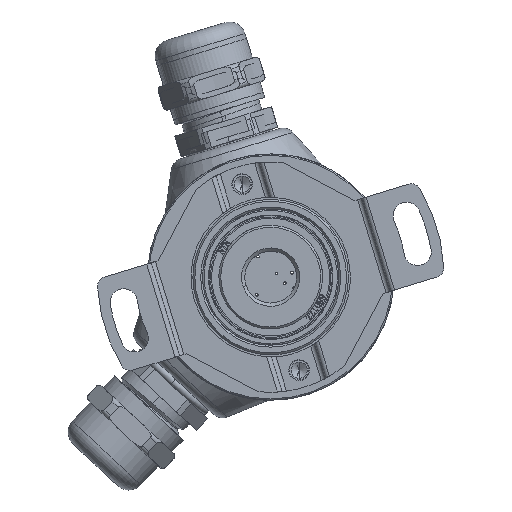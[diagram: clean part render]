
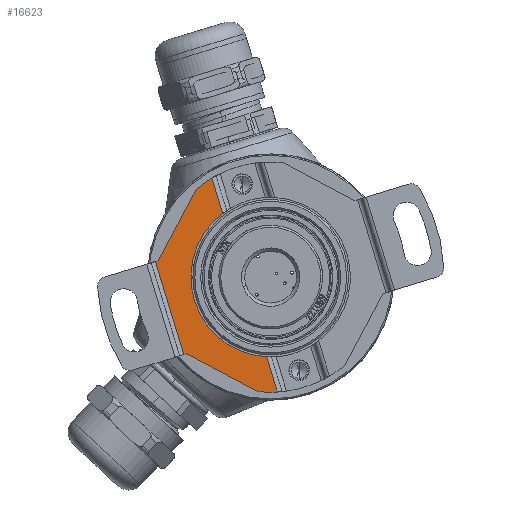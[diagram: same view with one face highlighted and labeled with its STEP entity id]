
A CAD part, front view. The second image highlights one B-rep face of the part: STEP entity #16623.
In plain terms, the highlighted planar face has unit normal (0, -1, 0) as drawn and (-1, 0, 0) by its records, which use the part's own axes.
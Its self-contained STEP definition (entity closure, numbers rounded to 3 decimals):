
#2673 = CARTESIAN_POINT ( 'NONE',  ( -2., -16.3, 12.5 ) ) ;
#3513 = ORIENTED_EDGE ( 'NONE', *, *, #17398, .T. ) ;
#3627 = CARTESIAN_POINT ( 'NONE',  ( -2., -16.3, 40. ) ) ;
#4490 = ORIENTED_EDGE ( 'NONE', *, *, #30512, .T. ) ;
#4609 = VERTEX_POINT ( 'NONE', #34836 ) ;
#6031 = DIRECTION ( 'NONE',  ( 0., 0., -1. ) ) ;
#6487 = CARTESIAN_POINT ( 'NONE',  ( -2., -4.2, 2.754 ) ) ;
#7362 = VERTEX_POINT ( 'NONE', #36213 ) ;
#8220 = CARTESIAN_POINT ( 'NONE',  ( -2., -7.041, 36.294 ) ) ;
#8225 = DIRECTION ( 'NONE',  ( 0., 0.707, 0.707 ) ) ;
#8730 = CARTESIAN_POINT ( 'NONE',  ( -2., 0., 20. ) ) ;
#10491 = VERTEX_POINT ( 'NONE', #26599 ) ;
#10509 = EDGE_LOOP ( 'NONE', ( #50079, #29484, #55674, #28095, #55848, #13007, #3513, #30097, #38497, #4490 ) ) ;
#10674 = CIRCLE ( 'NONE', #31870, 17.75 ) ;
#12072 = CARTESIAN_POINT ( 'NONE',  ( -2., 0., 20. ) ) ;
#12081 = AXIS2_PLACEMENT_3D ( 'NONE', #21382, #53106, #25925 ) ;
#12543 = VECTOR ( 'NONE', #39660, 1000. ) ;
#12937 = DIRECTION ( 'NONE',  ( -1., 0., 0. ) ) ;
#13007 = ORIENTED_EDGE ( 'NONE', *, *, #49687, .F. ) ;
#13290 = DIRECTION ( 'NONE',  ( 0., -1., 0. ) ) ;
#16465 = VECTOR ( 'NONE', #22263, 1000. ) ;
#16623 = ADVANCED_FACE ( 'NONE', ( #25693 ), #40115, .T. ) ;
#16655 = DIRECTION ( 'NONE',  ( 0., -1., 0. ) ) ;
#17398 = EDGE_CURVE ( 'NONE', #7362, #10491, #29126, .T. ) ;
#21382 = CARTESIAN_POINT ( 'NONE',  ( -2., 0., 20. ) ) ;
#22263 = DIRECTION ( 'NONE',  ( 0., 0., -1. ) ) ;
#24408 = CARTESIAN_POINT ( 'NONE',  ( -2., -9.817, 33.517 ) ) ;
#24619 = LINE ( 'NONE', #44042, #12543 ) ;
#24855 = EDGE_CURVE ( 'NONE', #10491, #46284, #34937, .T. ) ;
#24973 = CIRCLE ( 'NONE', #12081, 17.75 ) ;
#25693 = FACE_OUTER_BOUND ( 'NONE', #10509, .T. ) ;
#25925 = DIRECTION ( 'NONE',  ( 0., -1., 0. ) ) ;
#26599 = CARTESIAN_POINT ( 'NONE',  ( -2., -15.835, 27.5 ) ) ;
#27080 = LINE ( 'NONE', #31349, #16465 ) ;
#27728 = DIRECTION ( 'NONE',  ( 0., 1., 0. ) ) ;
#28095 = ORIENTED_EDGE ( 'NONE', *, *, #56116, .T. ) ;
#28219 = AXIS2_PLACEMENT_3D ( 'NONE', #3627, #12937, #44698 ) ;
#28251 = VERTEX_POINT ( 'NONE', #6487 ) ;
#28848 = CARTESIAN_POINT ( 'NONE',  ( -2., -16.3, 12.5 ) ) ;
#28856 = EDGE_CURVE ( 'NONE', #47005, #37873, #48909, .T. ) ;
#29126 = LINE ( 'NONE', #37051, #39798 ) ;
#29484 = ORIENTED_EDGE ( 'NONE', *, *, #34666, .T. ) ;
#29771 = CARTESIAN_POINT ( 'NONE',  ( -2., -4.2, 8.439 ) ) ;
#30097 = ORIENTED_EDGE ( 'NONE', *, *, #24855, .T. ) ;
#30512 = EDGE_CURVE ( 'NONE', #4609, #52741, #35186, .T. ) ;
#31349 = CARTESIAN_POINT ( 'NONE',  ( -2., -4.2, 40. ) ) ;
#31870 = AXIS2_PLACEMENT_3D ( 'NONE', #12072, #43825, #16655 ) ;
#33174 = CARTESIAN_POINT ( 'NONE',  ( -2., -4.2, 31.561 ) ) ;
#33225 = VERTEX_POINT ( 'NONE', #39427 ) ;
#33389 = DIRECTION ( 'NONE',  ( 0., 1., 0. ) ) ;
#34666 = EDGE_CURVE ( 'NONE', #35815, #28251, #27080, .T. ) ;
#34836 = CARTESIAN_POINT ( 'NONE',  ( -2., -4.2, 37.246 ) ) ;
#34937 = LINE ( 'NONE', #24408, #45612 ) ;
#35186 = LINE ( 'NONE', #55836, #45859 ) ;
#35815 = VERTEX_POINT ( 'NONE', #29771 ) ;
#36014 = EDGE_CURVE ( 'NONE', #35815, #52741, #42594, .T. ) ;
#36213 = CARTESIAN_POINT ( 'NONE',  ( -2., -16.3, 27.5 ) ) ;
#37051 = CARTESIAN_POINT ( 'NONE',  ( -2., -16.3, 27.5 ) ) ;
#37873 = VERTEX_POINT ( 'NONE', #44947 ) ;
#38378 = LINE ( 'NONE', #50026, #47654 ) ;
#38497 = ORIENTED_EDGE ( 'NONE', *, *, #55516, .T. ) ;
#39427 = CARTESIAN_POINT ( 'NONE',  ( -2., -7.041, 3.706 ) ) ;
#39660 = DIRECTION ( 'NONE',  ( 0., 0., -1. ) ) ;
#39798 = VECTOR ( 'NONE', #27728, 1000. ) ;
#40115 = PLANE ( 'NONE',  #28219 ) ;
#40464 = DIRECTION ( 'NONE',  ( -1., 0., 0. ) ) ;
#42594 = CIRCLE ( 'NONE', #46176, 12.3 ) ;
#43825 = DIRECTION ( 'NONE',  ( -1., 0., 0. ) ) ;
#44042 = CARTESIAN_POINT ( 'NONE',  ( -2., -16.3, 40. ) ) ;
#44698 = DIRECTION ( 'NONE',  ( 0., -1., 0. ) ) ;
#44947 = CARTESIAN_POINT ( 'NONE',  ( -2., -15.835, 12.5 ) ) ;
#45466 = DIRECTION ( 'NONE',  ( 0., -0.707, 0.707 ) ) ;
#45612 = VECTOR ( 'NONE', #8225, 1000. ) ;
#45859 = VECTOR ( 'NONE', #6031, 1000. ) ;
#46176 = AXIS2_PLACEMENT_3D ( 'NONE', #8730, #40464, #13290 ) ;
#46284 = VERTEX_POINT ( 'NONE', #8220 ) ;
#47005 = VERTEX_POINT ( 'NONE', #2673 ) ;
#47654 = VECTOR ( 'NONE', #45466, 1000. ) ;
#48909 = LINE ( 'NONE', #28848, #51726 ) ;
#49687 = EDGE_CURVE ( 'NONE', #7362, #47005, #24619, .T. ) ;
#50026 = CARTESIAN_POINT ( 'NONE',  ( -2., -29.817, 26.483 ) ) ;
#50079 = ORIENTED_EDGE ( 'NONE', *, *, #36014, .F. ) ;
#51726 = VECTOR ( 'NONE', #33389, 1000. ) ;
#52741 = VERTEX_POINT ( 'NONE', #33174 ) ;
#53106 = DIRECTION ( 'NONE',  ( -1., 0., 0. ) ) ;
#55516 = EDGE_CURVE ( 'NONE', #46284, #4609, #24973, .T. ) ;
#55674 = ORIENTED_EDGE ( 'NONE', *, *, #56449, .T. ) ;
#55836 = CARTESIAN_POINT ( 'NONE',  ( -2., -4.2, 40. ) ) ;
#55848 = ORIENTED_EDGE ( 'NONE', *, *, #28856, .F. ) ;
#56116 = EDGE_CURVE ( 'NONE', #33225, #37873, #38378, .T. ) ;
#56449 = EDGE_CURVE ( 'NONE', #28251, #33225, #10674, .T. ) ;
